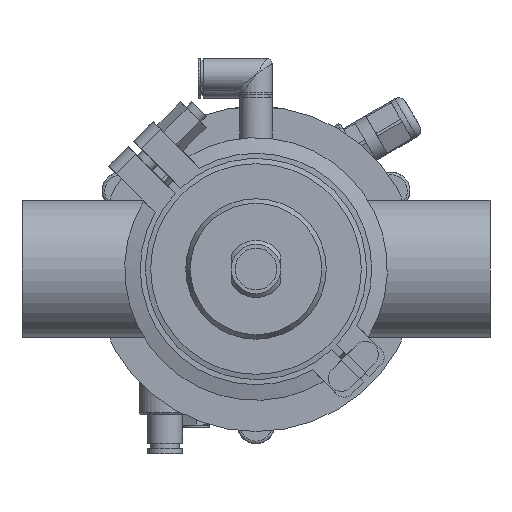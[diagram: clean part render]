
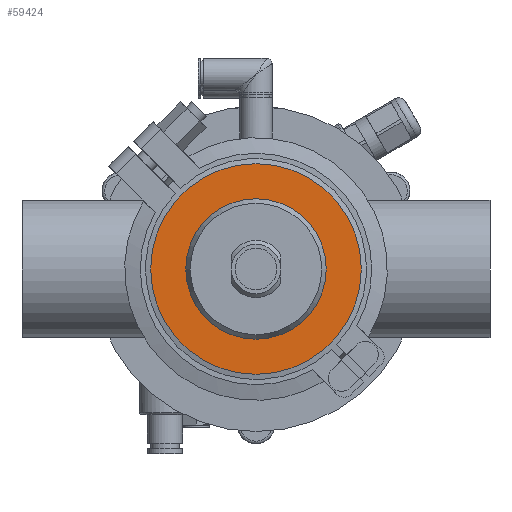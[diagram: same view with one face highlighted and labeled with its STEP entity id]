
A CAD part, front view. The second image highlights one B-rep face of the part: STEP entity #59424.
In plain terms, the highlighted planar face has unit normal (0, -1, 0).
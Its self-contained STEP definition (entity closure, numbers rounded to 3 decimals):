
#2272 = DIRECTION ( 'NONE',  ( 0., 1., 0. ) ) ;
#2789 = CIRCLE ( 'NONE', #30044, 40.5 ) ;
#6695 = DIRECTION ( 'NONE',  ( 0., 0., 1. ) ) ;
#9035 = ORIENTED_EDGE ( 'NONE', *, *, #40329, .F. ) ;
#11663 = VERTEX_POINT ( 'NONE', #21814 ) ;
#11925 = CIRCLE ( 'NONE', #62410, 27. ) ;
#12352 = CARTESIAN_POINT ( 'NONE',  ( 0., -13., 0. ) ) ;
#13055 = PLANE ( 'NONE',  #28631 ) ;
#13535 = DIRECTION ( 'NONE',  ( 0., 0., 1. ) ) ;
#21814 = CARTESIAN_POINT ( 'NONE',  ( 0., -13., 27. ) ) ;
#22554 = FACE_BOUND ( 'NONE', #48291, .T. ) ;
#28631 = AXIS2_PLACEMENT_3D ( 'NONE', #51650, #61378, #41186 ) ;
#30044 = AXIS2_PLACEMENT_3D ( 'NONE', #12352, #2272, #6695 ) ;
#35083 = ORIENTED_EDGE ( 'NONE', *, *, #39676, .T. ) ;
#37869 = CARTESIAN_POINT ( 'NONE',  ( 0., -13., 0. ) ) ;
#38503 = DIRECTION ( 'NONE',  ( 0., 1., 0. ) ) ;
#39676 = EDGE_CURVE ( 'NONE', #11663, #11663, #11925, .T. ) ;
#40329 = EDGE_CURVE ( 'NONE', #54329, #54329, #2789, .T. ) ;
#41186 = DIRECTION ( 'NONE',  ( 0., 0., -1. ) ) ;
#42111 = FACE_OUTER_BOUND ( 'NONE', #55901, .T. ) ;
#45520 = CARTESIAN_POINT ( 'NONE',  ( 0., -13., 40.5 ) ) ;
#48291 = EDGE_LOOP ( 'NONE', ( #35083 ) ) ;
#51650 = CARTESIAN_POINT ( 'NONE',  ( -40.5, -13., 0. ) ) ;
#54329 = VERTEX_POINT ( 'NONE', #45520 ) ;
#55901 = EDGE_LOOP ( 'NONE', ( #9035 ) ) ;
#59424 = ADVANCED_FACE ( 'NONE', ( #22554, #42111 ), #13055, .T. ) ;
#61378 = DIRECTION ( 'NONE',  ( 0., -1., 0. ) ) ;
#62410 = AXIS2_PLACEMENT_3D ( 'NONE', #37869, #38503, #13535 ) ;
